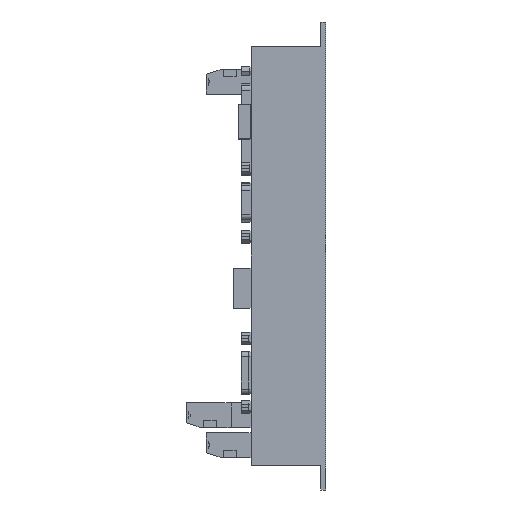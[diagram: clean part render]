
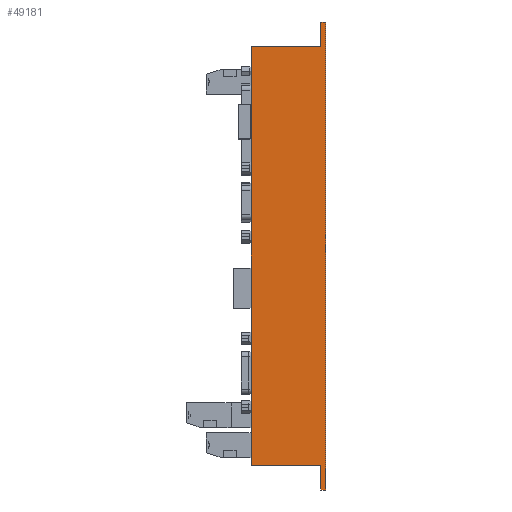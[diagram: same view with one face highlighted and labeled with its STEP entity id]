
A CAD part, left-side view. The second image highlights one B-rep face of the part: STEP entity #49181.
In plain terms, the highlighted planar face has unit normal (-1, 0, 0).
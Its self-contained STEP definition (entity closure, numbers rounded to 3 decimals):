
#851 = VERTEX_POINT ( 'NONE', #40208 ) ;
#1817 = ORIENTED_EDGE ( 'NONE', *, *, #18510, .F. ) ;
#1943 = CARTESIAN_POINT ( 'NONE',  ( 0., 30., -102.297 ) ) ;
#2216 = EDGE_CURVE ( 'NONE', #7954, #62682, #65692, .T. ) ;
#4379 = DIRECTION ( 'NONE',  ( 0., 1., 0. ) ) ;
#4381 = ORIENTED_EDGE ( 'NONE', *, *, #70013, .F. ) ;
#4806 = DIRECTION ( 'NONE',  ( 0., -1., 0. ) ) ;
#5624 = DIRECTION ( 'NONE',  ( 1., 0., 0. ) ) ;
#5630 = LINE ( 'NONE', #24101, #66044 ) ;
#6941 = LINE ( 'NONE', #16704, #53061 ) ;
#7954 = VERTEX_POINT ( 'NONE', #37257 ) ;
#8449 = CARTESIAN_POINT ( 'NONE',  ( 0., 2., -102.297 ) ) ;
#10793 = DIRECTION ( 'NONE',  ( 0., 0., 1. ) ) ;
#11557 = LINE ( 'NONE', #65932, #40446 ) ;
#12433 = EDGE_CURVE ( 'NONE', #56638, #49046, #26692, .T. ) ;
#12557 = DIRECTION ( 'NONE',  ( 0., 1., 0. ) ) ;
#13069 = LINE ( 'NONE', #52979, #26605 ) ;
#14222 = CARTESIAN_POINT ( 'NONE',  ( 0., 2., 75.703 ) ) ;
#14393 = DIRECTION ( 'NONE',  ( 0., -1., 0. ) ) ;
#14711 = VERTEX_POINT ( 'NONE', #61059 ) ;
#15851 = LINE ( 'NONE', #74163, #60150 ) ;
#16704 = CARTESIAN_POINT ( 'NONE',  ( 0., 2., 75.703 ) ) ;
#17467 = ORIENTED_EDGE ( 'NONE', *, *, #45341, .F. ) ;
#18287 = ORIENTED_EDGE ( 'NONE', *, *, #69720, .F. ) ;
#18510 = EDGE_CURVE ( 'NONE', #40908, #14711, #13069, .T. ) ;
#21076 = CARTESIAN_POINT ( 'NONE',  ( 0., 2., -102.297 ) ) ;
#23201 = LINE ( 'NONE', #1943, #52131 ) ;
#24101 = CARTESIAN_POINT ( 'NONE',  ( 0., 0., 75.703 ) ) ;
#24304 = VERTEX_POINT ( 'NONE', #14222 ) ;
#24853 = VECTOR ( 'NONE', #4379, 1000. ) ;
#25182 = DIRECTION ( 'NONE',  ( 0., 0., 1. ) ) ;
#25321 = ORIENTED_EDGE ( 'NONE', *, *, #36354, .F. ) ;
#26605 = VECTOR ( 'NONE', #12557, 1000. ) ;
#26692 = LINE ( 'NONE', #21076, #24853 ) ;
#29647 = ORIENTED_EDGE ( 'NONE', *, *, #12433, .F. ) ;
#29891 = DIRECTION ( 'NONE',  ( 0., 0., -1. ) ) ;
#30310 = ORIENTED_EDGE ( 'NONE', *, *, #69445, .F. ) ;
#36265 = CARTESIAN_POINT ( 'NONE',  ( 0., 2., 65.703 ) ) ;
#36354 = EDGE_CURVE ( 'NONE', #14711, #56638, #15851, .T. ) ;
#37257 = CARTESIAN_POINT ( 'NONE',  ( 0., 30., 65.703 ) ) ;
#39331 = FACE_OUTER_BOUND ( 'NONE', #58133, .T. ) ;
#39715 = CARTESIAN_POINT ( 'NONE',  ( 0., 0., 0. ) ) ;
#40208 = CARTESIAN_POINT ( 'NONE',  ( 0., 0., 75.703 ) ) ;
#40446 = VECTOR ( 'NONE', #71778, 1000. ) ;
#40908 = VERTEX_POINT ( 'NONE', #57209 ) ;
#45341 = EDGE_CURVE ( 'NONE', #851, #40908, #5630, .T. ) ;
#46053 = DIRECTION ( 'NONE',  ( 0., 0., -1. ) ) ;
#48547 = VECTOR ( 'NONE', #14393, 1000. ) ;
#48973 = ORIENTED_EDGE ( 'NONE', *, *, #2216, .F. ) ;
#49046 = VERTEX_POINT ( 'NONE', #55951 ) ;
#49181 = ADVANCED_FACE ( 'NONE', ( #39331 ), #69030, .F. ) ;
#52131 = VECTOR ( 'NONE', #25182, 1000. ) ;
#52979 = CARTESIAN_POINT ( 'NONE',  ( 0., 0., -112.297 ) ) ;
#53061 = VECTOR ( 'NONE', #4806, 1000. ) ;
#55951 = CARTESIAN_POINT ( 'NONE',  ( 0., 30., -102.297 ) ) ;
#56638 = VERTEX_POINT ( 'NONE', #8449 ) ;
#57072 = AXIS2_PLACEMENT_3D ( 'NONE', #39715, #5624, #46053 ) ;
#57209 = CARTESIAN_POINT ( 'NONE',  ( 0., 0., -112.297 ) ) ;
#58133 = EDGE_LOOP ( 'NONE', ( #18287, #30310, #48973, #4381, #29647, #25321, #1817, #17467 ) ) ;
#60150 = VECTOR ( 'NONE', #10793, 1000. ) ;
#61059 = CARTESIAN_POINT ( 'NONE',  ( 0., 2., -112.297 ) ) ;
#62682 = VERTEX_POINT ( 'NONE', #36265 ) ;
#65692 = LINE ( 'NONE', #66396, #48547 ) ;
#65932 = CARTESIAN_POINT ( 'NONE',  ( 0., 2., 65.703 ) ) ;
#66044 = VECTOR ( 'NONE', #29891, 1000. ) ;
#66396 = CARTESIAN_POINT ( 'NONE',  ( 0., 30., 65.703 ) ) ;
#69030 = PLANE ( 'NONE',  #57072 ) ;
#69445 = EDGE_CURVE ( 'NONE', #62682, #24304, #11557, .T. ) ;
#69720 = EDGE_CURVE ( 'NONE', #24304, #851, #6941, .T. ) ;
#70013 = EDGE_CURVE ( 'NONE', #49046, #7954, #23201, .T. ) ;
#71778 = DIRECTION ( 'NONE',  ( 0., 0., 1. ) ) ;
#74163 = CARTESIAN_POINT ( 'NONE',  ( 0., 2., -112.297 ) ) ;
